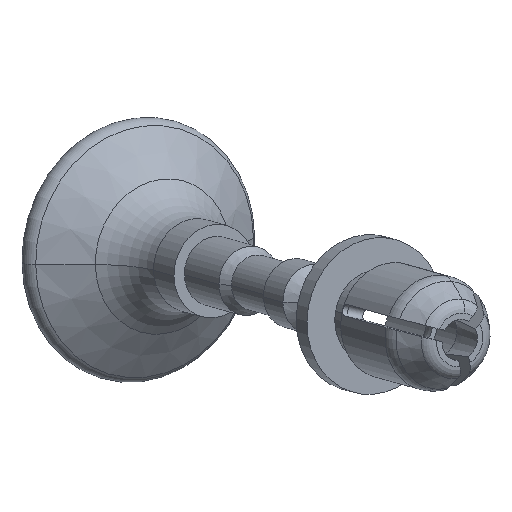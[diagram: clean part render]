
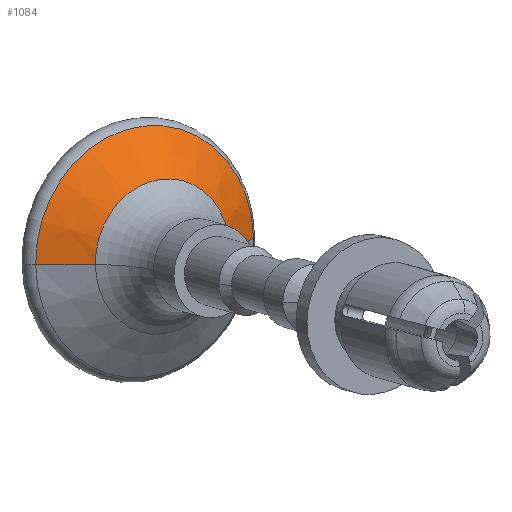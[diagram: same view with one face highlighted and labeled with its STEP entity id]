
A CAD part, front view. The second image highlights one B-rep face of the part: STEP entity #1084.
In plain terms, the highlighted conical face has half-angle 55 degrees and reference radius 6.864 mm.
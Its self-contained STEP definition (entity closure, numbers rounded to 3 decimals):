
#2 = CARTESIAN_POINT ( 'NONE',  ( -5.359, 0., 0. ) ) ;
#93 = CIRCLE ( 'NONE', #2827, 4.23 ) ;
#227 = DIRECTION ( 'NONE',  ( 0., 0., -1. ) ) ;
#442 = DIRECTION ( 'NONE',  ( -0.574, 0., -0.819 ) ) ;
#454 = CARTESIAN_POINT ( 'NONE',  ( -7.204, 0., 6.864 ) ) ;
#532 = ORIENTED_EDGE ( 'NONE', *, *, #1883, .T. ) ;
#546 = LINE ( 'NONE', #454, #3005 ) ;
#718 = VERTEX_POINT ( 'NONE', #1155 ) ;
#883 = DIRECTION ( 'NONE',  ( 1., 0., 0. ) ) ;
#903 = CARTESIAN_POINT ( 'NONE',  ( -7.204, 0., 0. ) ) ;
#963 = AXIS2_PLACEMENT_3D ( 'NONE', #2296, #883, #2555 ) ;
#1075 = CARTESIAN_POINT ( 'NONE',  ( -5.359, 0., -4.23 ) ) ;
#1084 = ADVANCED_FACE ( 'NONE', ( #2324 ), #1404, .T. ) ;
#1137 = VERTEX_POINT ( 'NONE', #1075 ) ;
#1155 = CARTESIAN_POINT ( 'NONE',  ( -7.204, 0., -6.864 ) ) ;
#1393 = LINE ( 'NONE', #1920, #2026 ) ;
#1404 = CONICAL_SURFACE ( 'NONE', #2276, 6.864, 0.96 ) ;
#1460 = VERTEX_POINT ( 'NONE', #2318 ) ;
#1556 = ORIENTED_EDGE ( 'NONE', *, *, #2495, .T. ) ;
#1626 = DIRECTION ( 'NONE',  ( -1., 0., 0. ) ) ;
#1714 = VERTEX_POINT ( 'NONE', #2013 ) ;
#1811 = DIRECTION ( 'NONE',  ( 0., 0., 1. ) ) ;
#1821 = ORIENTED_EDGE ( 'NONE', *, *, #2672, .T. ) ;
#1883 = EDGE_CURVE ( 'NONE', #1137, #718, #1393, .T. ) ;
#1892 = EDGE_CURVE ( 'NONE', #1714, #1460, #546, .T. ) ;
#1920 = CARTESIAN_POINT ( 'NONE',  ( -7.204, 0., -6.864 ) ) ;
#2013 = CARTESIAN_POINT ( 'NONE',  ( -5.359, 0., 4.23 ) ) ;
#2026 = VECTOR ( 'NONE', #442, 1000. ) ;
#2029 = DIRECTION ( 'NONE',  ( -1., 0., 0. ) ) ;
#2276 = AXIS2_PLACEMENT_3D ( 'NONE', #903, #2029, #1811 ) ;
#2296 = CARTESIAN_POINT ( 'NONE',  ( -7.204, 0., 0. ) ) ;
#2298 = ORIENTED_EDGE ( 'NONE', *, *, #1892, .F. ) ;
#2318 = CARTESIAN_POINT ( 'NONE',  ( -7.204, 0., 6.864 ) ) ;
#2324 = FACE_OUTER_BOUND ( 'NONE', #2438, .T. ) ;
#2438 = EDGE_LOOP ( 'NONE', ( #1821, #532, #1556, #2298 ) ) ;
#2495 = EDGE_CURVE ( 'NONE', #718, #1460, #2550, .T. ) ;
#2550 = CIRCLE ( 'NONE', #963, 6.864 ) ;
#2555 = DIRECTION ( 'NONE',  ( 0., 0., -1. ) ) ;
#2611 = DIRECTION ( 'NONE',  ( -0.574, 0., 0.819 ) ) ;
#2672 = EDGE_CURVE ( 'NONE', #1714, #1137, #93, .T. ) ;
#2827 = AXIS2_PLACEMENT_3D ( 'NONE', #2, #1626, #227 ) ;
#3005 = VECTOR ( 'NONE', #2611, 1000. ) ;
